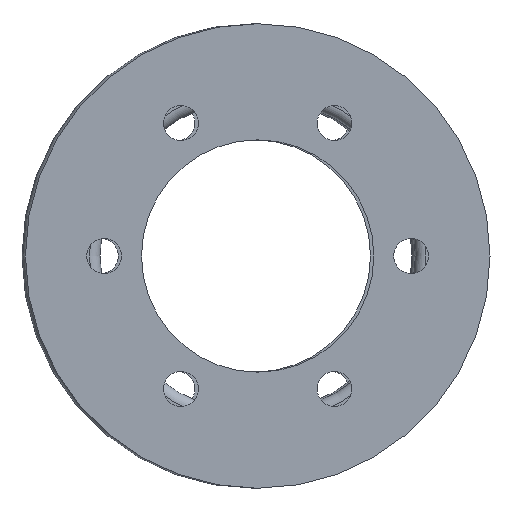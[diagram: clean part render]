
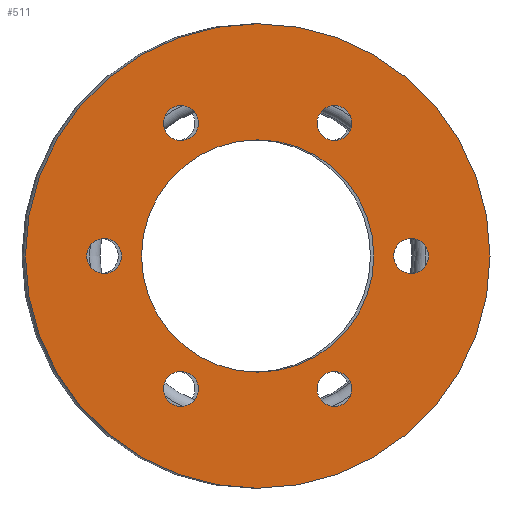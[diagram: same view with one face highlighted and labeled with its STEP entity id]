
A CAD part, left-side view. The second image highlights one B-rep face of the part: STEP entity #511.
In plain terms, the highlighted planar face has unit normal (-1, 0, 0).
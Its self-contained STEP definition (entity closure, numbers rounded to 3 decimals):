
#511 = ADVANCED_FACE( 'NONE', ( #750, #751, #752, #753, #754, #755, #756, #757 ), #758, .F. );
#750 = FACE_OUTER_BOUND( '', #868, .T. );
#751 = FACE_BOUND( '', #869, .T. );
#752 = FACE_BOUND( '', #870, .T. );
#753 = FACE_BOUND( '', #871, .T. );
#754 = FACE_BOUND( '', #872, .T. );
#755 = FACE_BOUND( '', #873, .T. );
#756 = FACE_BOUND( '', #874, .T. );
#757 = FACE_BOUND( '', #875, .T. );
#758 = PLANE( '', #876 );
#868 = EDGE_LOOP( '', ( #1024 ) );
#869 = EDGE_LOOP( '', ( #1025 ) );
#870 = EDGE_LOOP( '', ( #1026 ) );
#871 = EDGE_LOOP( '', ( #1027 ) );
#872 = EDGE_LOOP( '', ( #1028 ) );
#873 = EDGE_LOOP( '', ( #1029 ) );
#874 = EDGE_LOOP( '', ( #1030 ) );
#875 = EDGE_LOOP( '', ( #1031 ) );
#876 = AXIS2_PLACEMENT_3D( '', #1032, #1033, #1034 );
#1024 = ORIENTED_EDGE( '', *, *, #1200, .T. );
#1025 = ORIENTED_EDGE( '', *, *, #1201, .F. );
#1026 = ORIENTED_EDGE( '', *, *, #1202, .F. );
#1027 = ORIENTED_EDGE( '', *, *, #1203, .F. );
#1028 = ORIENTED_EDGE( '', *, *, #1204, .F. );
#1029 = ORIENTED_EDGE( '', *, *, #1205, .F. );
#1030 = ORIENTED_EDGE( '', *, *, #1206, .F. );
#1031 = ORIENTED_EDGE( '', *, *, #1207, .F. );
#1032 = CARTESIAN_POINT( '', ( 0., 14., 0. ) );
#1033 = DIRECTION( '', ( 1., 0., 0. ) );
#1034 = DIRECTION( '', ( 0., 1., 0. ) );
#1200 = EDGE_CURVE( 'NONE', #1330, #1330, #1331, .T. );
#1201 = EDGE_CURVE( 'NONE', #1332, #1332, #1333, .T. );
#1202 = EDGE_CURVE( 'NONE', #1334, #1334, #1335, .T. );
#1203 = EDGE_CURVE( 'NONE', #1336, #1336, #1337, .T. );
#1204 = EDGE_CURVE( 'NONE', #1338, #1338, #1339, .T. );
#1205 = EDGE_CURVE( 'NONE', #1340, #1340, #1341, .T. );
#1206 = EDGE_CURVE( 'NONE', #1342, #1342, #1343, .T. );
#1207 = EDGE_CURVE( 'NONE', #1344, #1344, #1345, .T. );
#1330 = VERTEX_POINT( '', #1362 );
#1331 = CIRCLE( '', #1363, 28. );
#1332 = VERTEX_POINT( '', #1364 );
#1333 = CIRCLE( '', #1365, 2.1 );
#1334 = VERTEX_POINT( '', #1366 );
#1335 = CIRCLE( '', #1367, 2.1 );
#1336 = VERTEX_POINT( '', #1368 );
#1337 = CIRCLE( '', #1369, 2.1 );
#1338 = VERTEX_POINT( '', #1370 );
#1339 = CIRCLE( '', #1371, 2.1 );
#1340 = VERTEX_POINT( '', #1372 );
#1341 = CIRCLE( '', #1373, 14. );
#1342 = VERTEX_POINT( '', #1374 );
#1343 = CIRCLE( '', #1375, 2.1 );
#1344 = VERTEX_POINT( '', #1376 );
#1345 = CIRCLE( '', #1377, 2.1 );
#1362 = CARTESIAN_POINT( '', ( 0., 0., 28. ) );
#1363 = AXIS2_PLACEMENT_3D( '', #1394, #1395, #1396 );
#1364 = CARTESIAN_POINT( '', ( 0., 9.25, 18.121 ) );
#1365 = AXIS2_PLACEMENT_3D( '', #1397, #1398, #1399 );
#1366 = CARTESIAN_POINT( '', ( 0., -18.5, 2.1 ) );
#1367 = AXIS2_PLACEMENT_3D( '', #1400, #1401, #1402 );
#1368 = CARTESIAN_POINT( '', ( 0., 9.25, -13.921 ) );
#1369 = AXIS2_PLACEMENT_3D( '', #1403, #1404, #1405 );
#1370 = CARTESIAN_POINT( '', ( 0., 18.5, 2.1 ) );
#1371 = AXIS2_PLACEMENT_3D( '', #1406, #1407, #1408 );
#1372 = CARTESIAN_POINT( '', ( 0., 0., 14. ) );
#1373 = AXIS2_PLACEMENT_3D( '', #1409, #1410, #1411 );
#1374 = CARTESIAN_POINT( '', ( 0., -9.25, -13.921 ) );
#1375 = AXIS2_PLACEMENT_3D( '', #1412, #1413, #1414 );
#1376 = CARTESIAN_POINT( '', ( 0., -9.25, 18.121 ) );
#1377 = AXIS2_PLACEMENT_3D( '', #1415, #1416, #1417 );
#1394 = CARTESIAN_POINT( '', ( 0., 0., 0. ) );
#1395 = DIRECTION( '', ( -1., 0., 0. ) );
#1396 = DIRECTION( '', ( 0., 0., 1. ) );
#1397 = CARTESIAN_POINT( '', ( 0., 9.25, 16.021 ) );
#1398 = DIRECTION( '', ( -1., 0., 0. ) );
#1399 = DIRECTION( '', ( 0., 0., 1. ) );
#1400 = CARTESIAN_POINT( '', ( 0., -18.5, 0. ) );
#1401 = DIRECTION( '', ( -1., 0., 0. ) );
#1402 = DIRECTION( '', ( 0., 0., 1. ) );
#1403 = CARTESIAN_POINT( '', ( 0., 9.25, -16.021 ) );
#1404 = DIRECTION( '', ( -1., 0., 0. ) );
#1405 = DIRECTION( '', ( 0., 0., 1. ) );
#1406 = CARTESIAN_POINT( '', ( 0., 18.5, 0. ) );
#1407 = DIRECTION( '', ( -1., 0., 0. ) );
#1408 = DIRECTION( '', ( 0., 0., 1. ) );
#1409 = CARTESIAN_POINT( '', ( 0., 0., 0. ) );
#1410 = DIRECTION( '', ( -1., 0., 0. ) );
#1411 = DIRECTION( '', ( 0., 0., 1. ) );
#1412 = CARTESIAN_POINT( '', ( 0., -9.25, -16.021 ) );
#1413 = DIRECTION( '', ( -1., 0., 0. ) );
#1414 = DIRECTION( '', ( 0., 0., 1. ) );
#1415 = CARTESIAN_POINT( '', ( 0., -9.25, 16.021 ) );
#1416 = DIRECTION( '', ( -1., 0., 0. ) );
#1417 = DIRECTION( '', ( 0., 0., 1. ) );
